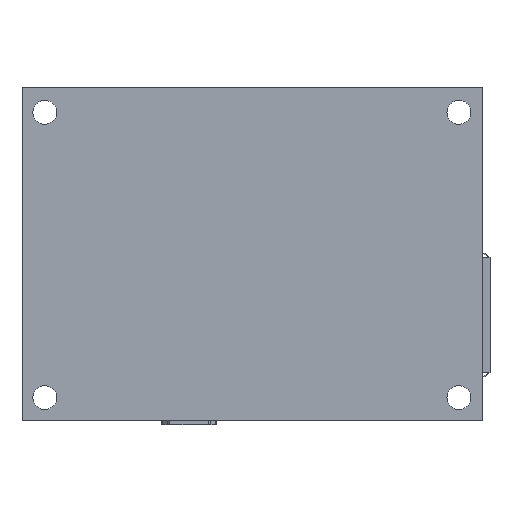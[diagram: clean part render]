
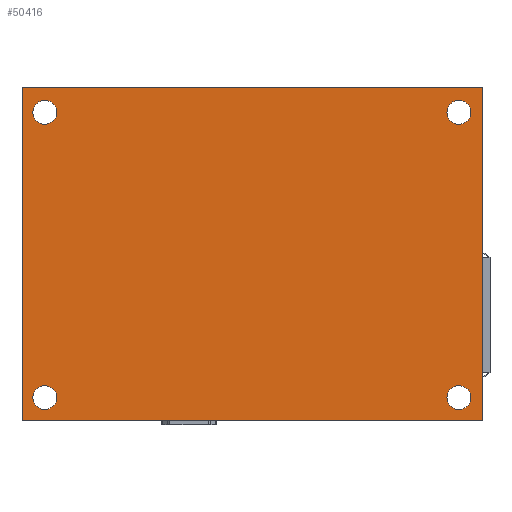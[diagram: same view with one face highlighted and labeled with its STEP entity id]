
A CAD part, front view. The second image highlights one B-rep face of the part: STEP entity #50416.
In plain terms, the highlighted planar face has unit normal (0, -1, 0).
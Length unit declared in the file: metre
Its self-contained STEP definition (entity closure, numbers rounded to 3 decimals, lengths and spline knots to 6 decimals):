
#1146 = DIRECTION ( 'NONE',  ( 0., 0., 1. ) ) ;
#1433 = VERTEX_POINT ( 'NONE', #37223 ) ;
#3278 = CARTESIAN_POINT ( 'NONE',  ( 0., 0., 0. ) ) ;
#3676 = ORIENTED_EDGE ( 'NONE', *, *, #42563, .T. ) ;
#5121 = DIRECTION ( 'NONE',  ( 0., 1., 0. ) ) ;
#5160 = EDGE_LOOP ( 'NONE', ( #20136, #23462 ) ) ;
#5334 = VERTEX_POINT ( 'NONE', #21223 ) ;
#5406 = VERTEX_POINT ( 'NONE', #31577 ) ;
#5548 = AXIS2_PLACEMENT_3D ( 'NONE', #50727, #14038, #46280 ) ;
#5638 = ORIENTED_EDGE ( 'NONE', *, *, #9612, .F. ) ;
#6036 = EDGE_LOOP ( 'NONE', ( #17060, #10499 ) ) ;
#6348 = AXIS2_PLACEMENT_3D ( 'NONE', #32578, #15191, #32985 ) ;
#6619 = ORIENTED_EDGE ( 'NONE', *, *, #33295, .F. ) ;
#7480 = EDGE_CURVE ( 'NONE', #9928, #10677, #9345, .T. ) ;
#7966 = VECTOR ( 'NONE', #1146, 1. ) ;
#8361 = DIRECTION ( 'NONE',  ( 0., 1., 0. ) ) ;
#8642 = FACE_BOUND ( 'NONE', #5160, .T. ) ;
#9042 = CIRCLE ( 'NONE', #6348, 0.00165 ) ;
#9345 = CIRCLE ( 'NONE', #40080, 0.00165 ) ;
#9350 = FACE_BOUND ( 'NONE', #38224, .T. ) ;
#9612 = EDGE_CURVE ( 'NONE', #51435, #5334, #37981, .T. ) ;
#9803 = DIRECTION ( 'NONE',  ( 0., 0., 1. ) ) ;
#9928 = VERTEX_POINT ( 'NONE', #39746 ) ;
#10255 = AXIS2_PLACEMENT_3D ( 'NONE', #18087, #54945, #22686 ) ;
#10499 = ORIENTED_EDGE ( 'NONE', *, *, #53575, .T. ) ;
#10677 = VERTEX_POINT ( 'NONE', #40644 ) ;
#10717 = DIRECTION ( 'NONE',  ( 1., 0., 0. ) ) ;
#11274 = CIRCLE ( 'NONE', #5548, 0.00165 ) ;
#13845 = AXIS2_PLACEMENT_3D ( 'NONE', #3278, #49017, #53394 ) ;
#13858 = CARTESIAN_POINT ( 'NONE',  ( -0.0318, 0., -0.023 ) ) ;
#13895 = EDGE_CURVE ( 'NONE', #10677, #9928, #22619, .T. ) ;
#14038 = DIRECTION ( 'NONE',  ( 0., 1., 0. ) ) ;
#14056 = VERTEX_POINT ( 'NONE', #28670 ) ;
#14822 = CARTESIAN_POINT ( 'NONE',  ( -0.0318, 0., -0.023 ) ) ;
#15191 = DIRECTION ( 'NONE',  ( 0., 1., 0. ) ) ;
#15620 = ORIENTED_EDGE ( 'NONE', *, *, #21612, .F. ) ;
#16662 = AXIS2_PLACEMENT_3D ( 'NONE', #22947, #8361, #26565 ) ;
#17060 = ORIENTED_EDGE ( 'NONE', *, *, #27493, .T. ) ;
#17385 = EDGE_LOOP ( 'NONE', ( #15620, #5638, #6619, #36500 ) ) ;
#17864 = VERTEX_POINT ( 'NONE', #13858 ) ;
#18087 = CARTESIAN_POINT ( 'NONE',  ( -0.02865, 0., 0.019526 ) ) ;
#20136 = ORIENTED_EDGE ( 'NONE', *, *, #29752, .T. ) ;
#20331 = DIRECTION ( 'NONE',  ( 0., 1., 0. ) ) ;
#20339 = CIRCLE ( 'NONE', #30831, 0.00165 ) ;
#20351 = DIRECTION ( 'NONE',  ( 0., 0., 1. ) ) ;
#21223 = CARTESIAN_POINT ( 'NONE',  ( 0.0318, 0., 0.023 ) ) ;
#21372 = AXIS2_PLACEMENT_3D ( 'NONE', #47413, #46819, #20351 ) ;
#21612 = EDGE_CURVE ( 'NONE', #5334, #1433, #39907, .T. ) ;
#22339 = CARTESIAN_POINT ( 'NONE',  ( 0.0285, 0., -0.021494 ) ) ;
#22619 = CIRCLE ( 'NONE', #10255, 0.00165 ) ;
#22686 = DIRECTION ( 'NONE',  ( 0., 0., 1. ) ) ;
#22781 = ORIENTED_EDGE ( 'NONE', *, *, #7480, .T. ) ;
#22947 = CARTESIAN_POINT ( 'NONE',  ( -0.02865, 0., -0.019844 ) ) ;
#23462 = ORIENTED_EDGE ( 'NONE', *, *, #38486, .T. ) ;
#23563 = CARTESIAN_POINT ( 'NONE',  ( -0.02865, 0., 0.019526 ) ) ;
#26565 = DIRECTION ( 'NONE',  ( 0., 0., 1. ) ) ;
#27195 = VECTOR ( 'NONE', #10717, 1. ) ;
#27336 = EDGE_CURVE ( 'NONE', #1433, #17864, #53243, .T. ) ;
#27493 = EDGE_CURVE ( 'NONE', #5406, #32259, #55275, .T. ) ;
#27911 = EDGE_LOOP ( 'NONE', ( #3676, #57935 ) ) ;
#28441 = VERTEX_POINT ( 'NONE', #33679 ) ;
#28670 = CARTESIAN_POINT ( 'NONE',  ( 0.0285, 0., -0.018194 ) ) ;
#28688 = CARTESIAN_POINT ( 'NONE',  ( -0.0318, 0., 0.023 ) ) ;
#29506 = CARTESIAN_POINT ( 'NONE',  ( -0.0318, 0., 0.023 ) ) ;
#29719 = DIRECTION ( 'NONE',  ( 0., 0., 1. ) ) ;
#29752 = EDGE_CURVE ( 'NONE', #28441, #54781, #32924, .T. ) ;
#30786 = CARTESIAN_POINT ( 'NONE',  ( -0.0318, 0., -0.023 ) ) ;
#30800 = ORIENTED_EDGE ( 'NONE', *, *, #13895, .T. ) ;
#30831 = AXIS2_PLACEMENT_3D ( 'NONE', #46797, #5121, #37202 ) ;
#31577 = CARTESIAN_POINT ( 'NONE',  ( -0.02865, 0., -0.018194 ) ) ;
#32259 = VERTEX_POINT ( 'NONE', #37762 ) ;
#32578 = CARTESIAN_POINT ( 'NONE',  ( 0.0285, 0., -0.019844 ) ) ;
#32924 = CIRCLE ( 'NONE', #21372, 0.00165 ) ;
#32985 = DIRECTION ( 'NONE',  ( 0., 0., 1. ) ) ;
#33295 = EDGE_CURVE ( 'NONE', #17864, #51435, #33777, .T. ) ;
#33430 = VECTOR ( 'NONE', #38209, 1. ) ;
#33679 = CARTESIAN_POINT ( 'NONE',  ( 0.0285, 0., 0.021176 ) ) ;
#33777 = LINE ( 'NONE', #14822, #7966 ) ;
#35709 = AXIS2_PLACEMENT_3D ( 'NONE', #38792, #20331, #29719 ) ;
#36385 = VERTEX_POINT ( 'NONE', #22339 ) ;
#36500 = ORIENTED_EDGE ( 'NONE', *, *, #27336, .F. ) ;
#37202 = DIRECTION ( 'NONE',  ( 0., 0., 1. ) ) ;
#37223 = CARTESIAN_POINT ( 'NONE',  ( 0.0318, 0., -0.023 ) ) ;
#37330 = FACE_OUTER_BOUND ( 'NONE', #17385, .T. ) ;
#37762 = CARTESIAN_POINT ( 'NONE',  ( -0.02865, 0., -0.021494 ) ) ;
#37981 = LINE ( 'NONE', #28688, #27195 ) ;
#38209 = DIRECTION ( 'NONE',  ( 0., 0., -1. ) ) ;
#38224 = EDGE_LOOP ( 'NONE', ( #30800, #22781 ) ) ;
#38486 = EDGE_CURVE ( 'NONE', #54781, #28441, #20339, .T. ) ;
#38792 = CARTESIAN_POINT ( 'NONE',  ( 0.0285, 0., -0.019844 ) ) ;
#39746 = CARTESIAN_POINT ( 'NONE',  ( -0.02865, 0., 0.017876 ) ) ;
#39907 = LINE ( 'NONE', #47408, #33430 ) ;
#40080 = AXIS2_PLACEMENT_3D ( 'NONE', #23563, #46243, #9803 ) ;
#40644 = CARTESIAN_POINT ( 'NONE',  ( -0.02865, 0., 0.021176 ) ) ;
#42531 = CARTESIAN_POINT ( 'NONE',  ( 0.0285, 0., 0.017876 ) ) ;
#42563 = EDGE_CURVE ( 'NONE', #14056, #36385, #9042, .T. ) ;
#44598 = DIRECTION ( 'NONE',  ( -1., 0., 0. ) ) ;
#46243 = DIRECTION ( 'NONE',  ( 0., 1., 0. ) ) ;
#46280 = DIRECTION ( 'NONE',  ( 0., 0., 1. ) ) ;
#46797 = CARTESIAN_POINT ( 'NONE',  ( 0.0285, 0., 0.019526 ) ) ;
#46819 = DIRECTION ( 'NONE',  ( 0., 1., 0. ) ) ;
#47408 = CARTESIAN_POINT ( 'NONE',  ( 0.0318, 0., -0.023 ) ) ;
#47413 = CARTESIAN_POINT ( 'NONE',  ( 0.0285, 0., 0.019526 ) ) ;
#49017 = DIRECTION ( 'NONE',  ( 0., 1., 0. ) ) ;
#49501 = EDGE_CURVE ( 'NONE', #36385, #14056, #50320, .T. ) ;
#50242 = FACE_BOUND ( 'NONE', #6036, .T. ) ;
#50320 = CIRCLE ( 'NONE', #35709, 0.00165 ) ;
#50416 = ADVANCED_FACE ( 'NONE', ( #57357, #8642, #9350, #50242, #37330 ), #53606, .F. ) ;
#50727 = CARTESIAN_POINT ( 'NONE',  ( -0.02865, 0., -0.019844 ) ) ;
#51435 = VERTEX_POINT ( 'NONE', #29506 ) ;
#51833 = VECTOR ( 'NONE', #44598, 1. ) ;
#53243 = LINE ( 'NONE', #30786, #51833 ) ;
#53394 = DIRECTION ( 'NONE',  ( 0., 0., 1. ) ) ;
#53575 = EDGE_CURVE ( 'NONE', #32259, #5406, #11274, .T. ) ;
#53606 = PLANE ( 'NONE',  #13845 ) ;
#54781 = VERTEX_POINT ( 'NONE', #42531 ) ;
#54945 = DIRECTION ( 'NONE',  ( 0., 1., 0. ) ) ;
#55275 = CIRCLE ( 'NONE', #16662, 0.00165 ) ;
#57357 = FACE_BOUND ( 'NONE', #27911, .T. ) ;
#57935 = ORIENTED_EDGE ( 'NONE', *, *, #49501, .T. ) ;
